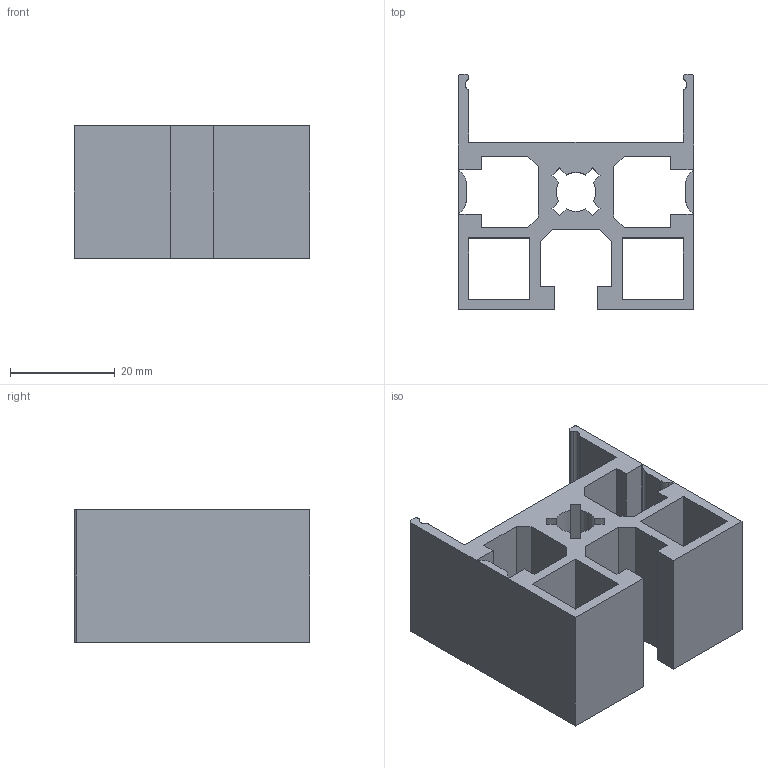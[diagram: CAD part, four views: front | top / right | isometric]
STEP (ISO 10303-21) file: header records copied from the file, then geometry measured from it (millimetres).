
FILE_DESCRIPTION((''),'2;1');
FILE_NAME('C:\Documents and Settings\Administrator\My Documents\Andys Backup Data\WEBSITE\DREAMWEAVER\MiniTec\Products\Aluminum_Profiles\CAD\STEP\20.1046 45X45 R.stp','2012-11-12T12:20:03',('Administrator'),(''),'Autodesk Inventor 2009','Autodesk Inventor 2009','');
FILE_SCHEMA(('AUTOMOTIVE_DESIGN { 1 0 10303 214 1 1 1 1 }'));
Length unit declared in the file: inch
Products named in the file (1): 20.1046 45X45 R
Bounding box: 45 x 45 x 25.4 mm (x, y, z)
Volume: 16188.6 mm3; surface area: 13676 mm2
Topology: 1 solids, 1 shells, 88 faces, 258 edges, 172 vertices
Faces by surface type: plane 70, cylinder 18
Entity records: 2946 total; most frequent: CARTESIAN_POINT 519, ORIENTED_EDGE 516, DIRECTION 472, EDGE_CURVE 258, VECTOR 222, LINE 222, VERTEX_POINT 172, AXIS2_PLACEMENT_3D 125
